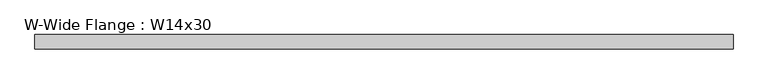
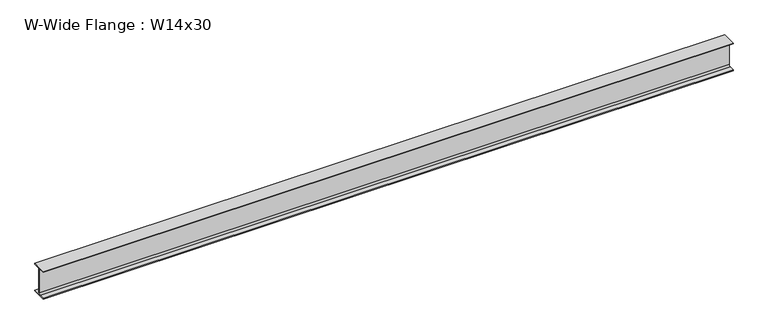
"""IFC4 building model written with IfcOpenShell, lengths in millimetres: beam geometry, W-Wide Flange : W14x30."""

from ifc_helpers import new_model, si_unit, point, frame, frame_2d, origin, place, context, project, spatial, polyline, circle_curve, trimmed, segment, composite_curve, outline, extrude, source, transform, mapped, element, save


def w_wide_flange_w14x30_50aad096(model_context):
    return source(origin(), model_context, "Body", "SweptSolid", [
        extrude(outline(composite_curve([segment(polyline([(85.471, -165.481), (85.471, -175.26), (-85.471, -175.26), (-85.471, -165.481), (-22.225, -165.481)]), True, "CONTINUOUS"), segment(trimmed(circle_curve(frame_2d((-22.225, -146.685)), 18.796), [point((-22.225, -165.481))], [point((-3.429, -146.685))], True, "CARTESIAN"), True, "CONTINUOUS"), segment(polyline([(-3.429, -146.685), (-3.429, 146.685)]), True, "CONTINUOUS"), segment(trimmed(circle_curve(frame_2d((-22.225, 146.685)), 18.796), [point((-3.429, 146.685))], [point((-22.225, 165.481))], True, "CARTESIAN"), True, "CONTINUOUS"), segment(polyline([(-22.225, 165.481), (-85.471, 165.481), (-85.471, 175.26), (85.471, 175.26), (85.471, 165.481), (22.225, 165.481)]), True, "CONTINUOUS"), segment(trimmed(circle_curve(frame_2d((22.225, 146.685)), 18.796), [point((22.225, 165.481))], [point((3.429, 146.685))], True, "CARTESIAN"), True, "CONTINUOUS"), segment(polyline([(3.429, 146.685), (3.429, -146.685)]), True, "CONTINUOUS"), segment(trimmed(circle_curve(frame_2d((22.225, -146.685)), 18.796), [point((3.429, -146.685))], [point((22.225, -165.481))], True, "CARTESIAN"), True, "CONTINUOUS"), segment(polyline([(22.225, -165.481), (85.471, -165.481)]), True, "CONTINUOUS")], self_intersect=False)), frame((-4231.513, 0.0, 0.0), z_axis=(1.0, 0.0, 0.0), x_axis=(0.0, 1.0, 0.0)), (0.0, 0.0, 1.0), 8308.213),
    ])


if __name__ == "__main__":
    model = new_model("IFC4")
    model_context = context("Model", 3, world=origin())
    ifc_project = project(units=[si_unit("LENGTHUNIT", "METRE", prefix="MILLI")], contexts=[model_context])
    site = spatial("IfcSite", under=ifc_project)
    building = spatial("IfcBuilding", under=site)
    placement = place(None, origin())
    w_wide_flange_w14x30_shape = w_wide_flange_w14x30_50aad096(model_context)
    element("IfcBeam", 1, ObjectType="W-Wide Flange : W14x30", at=placement, inside=building, context=model_context, shape_type="MappedRepresentation", body=[
        mapped(w_wide_flange_w14x30_shape, transform((0.0, 0.0, 0.0), x_axis=(1.0, 0.0, 0.0), y_axis=(0.0, 1.0, 0.0), z_axis=(0.0, 0.0, 1.0))),
    ])
    save(model, "model.ifc")
